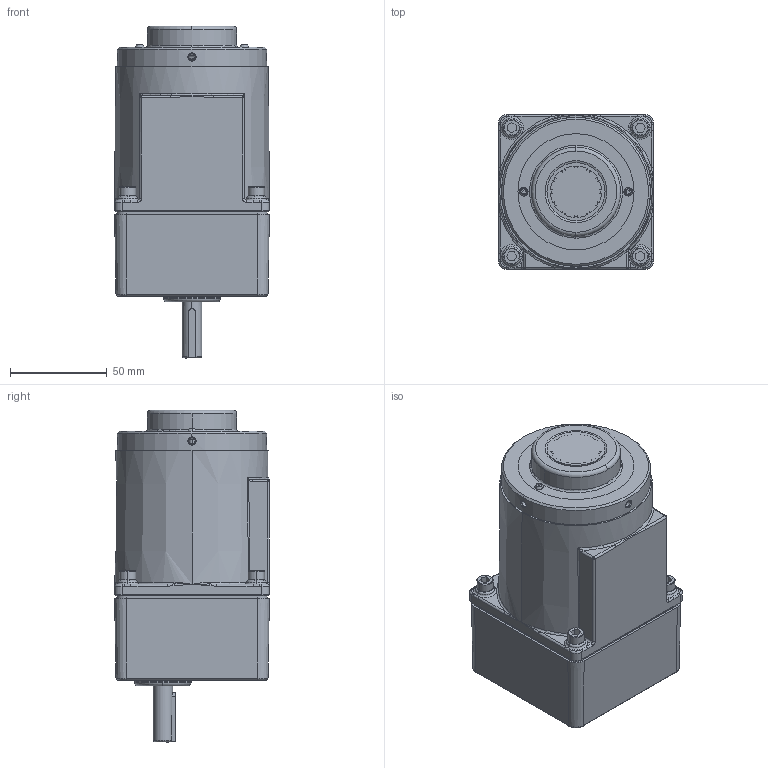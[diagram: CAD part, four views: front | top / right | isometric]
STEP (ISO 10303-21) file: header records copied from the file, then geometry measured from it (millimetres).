
FILE_DESCRIPTION(/* description */ (''),/* implementation_level */ '2;1');
FILE_NAME(/* name */ '80YT25WG-1+80GK-H.stp',/* time_stamp */ '2021-03-08T09:25:14+08:00',/* author */ (''),/* organization */ (''),/* preprocessor_version */ 'ST-DEVELOPER v16',/* originating_system */ 'SIEMENS PLM Software NX 11.0',/* authorisation */ '');
FILE_SCHEMA (('AUTOMOTIVE_DESIGN { 1 0 10303 214 3 1 1 1 }'));
Length unit declared in the file: millimetre
Products named in the file (1): 80YT25WGV22+80GK20H1264912649
Bounding box: 80 x 80 x 171.5 mm (x, y, z)
Volume: 219053.5 mm3; surface area: 111045.6 mm2
Topology: 12 solids, 12 shells, 830 faces, 2042 edges, 1244 vertices
Faces by surface type: cylinder 279, plane 232, torus 161, cone 84, bspline 66, sphere 8
Entity records: 32370 total; most frequent: CARTESIAN_POINT 13113, ORIENTED_EDGE 4012, DIRECTION 3990, EDGE_CURVE 2006, AXIS2_PLACEMENT_3D 1586, VERTEX_POINT 1244, EDGE_LOOP 912, ADVANCED_FACE 830
